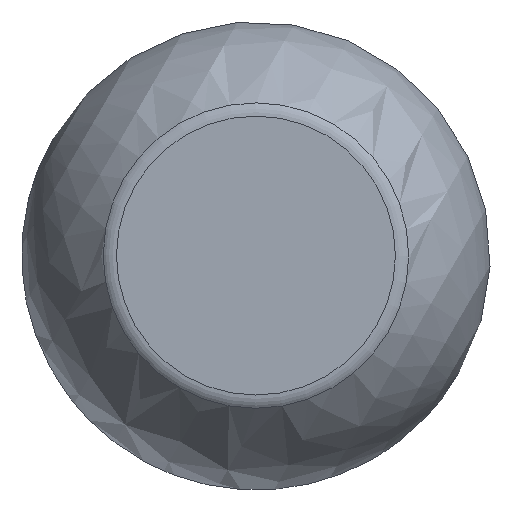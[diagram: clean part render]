
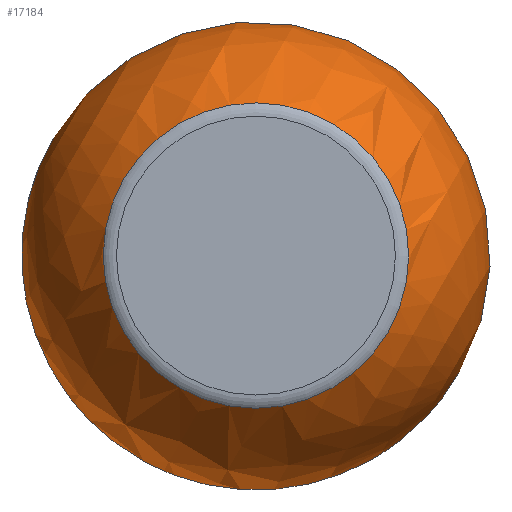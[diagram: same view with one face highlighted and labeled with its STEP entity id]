
A CAD part, top view. The second image highlights one B-rep face of the part: STEP entity #17184.
In plain terms, the highlighted spherical face has radius 18.326 mm.
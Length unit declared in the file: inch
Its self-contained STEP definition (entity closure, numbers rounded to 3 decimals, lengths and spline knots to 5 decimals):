
#61=SPHERICAL_SURFACE('',#18205,0.7215);
#226=FACE_BOUND('',#3007,.T.);
#227=FACE_BOUND('',#3008,.T.);
#3007=EDGE_LOOP('',(#15581));
#3008=EDGE_LOOP('',(#15582));
#4414=CIRCLE('',#18204,0.47012);
#4415=CIRCLE('',#18206,0.40377);
#8400=VERTEX_POINT('',#39050);
#8401=VERTEX_POINT('',#39053);
#10831=EDGE_CURVE('',#8400,#8400,#4414,.T.);
#10832=EDGE_CURVE('',#8401,#8401,#4415,.T.);
#15581=ORIENTED_EDGE('',*,*,#10831,.T.);
#15582=ORIENTED_EDGE('',*,*,#10832,.F.);
#17184=ADVANCED_FACE('',(#226,#227),#61,.T.);
#18204=AXIS2_PLACEMENT_3D('',#39051,#21143,#21144);
#18205=AXIS2_PLACEMENT_3D('',#39052,#21145,#21146);
#18206=AXIS2_PLACEMENT_3D('',#39054,#21147,#21148);
#21143=DIRECTION('center_axis',(1.,0.,0.));
#21144=DIRECTION('ref_axis',(0.,0.,-1.));
#21145=DIRECTION('center_axis',(0.,0.,1.));
#21146=DIRECTION('ref_axis',(1.,0.,0.));
#21147=DIRECTION('center_axis',(1.,0.,0.));
#21148=DIRECTION('ref_axis',(0.,0.,-1.));
#39050=CARTESIAN_POINT('',(0.01509,0.47012,0.));
#39051=CARTESIAN_POINT('Origin',(0.01509,0.,0.));
#39052=CARTESIAN_POINT('Origin',(0.5624,0.,0.));
#39053=CARTESIAN_POINT('',(1.16034,0.40377,0.));
#39054=CARTESIAN_POINT('Origin',(1.16034,0.,0.));
